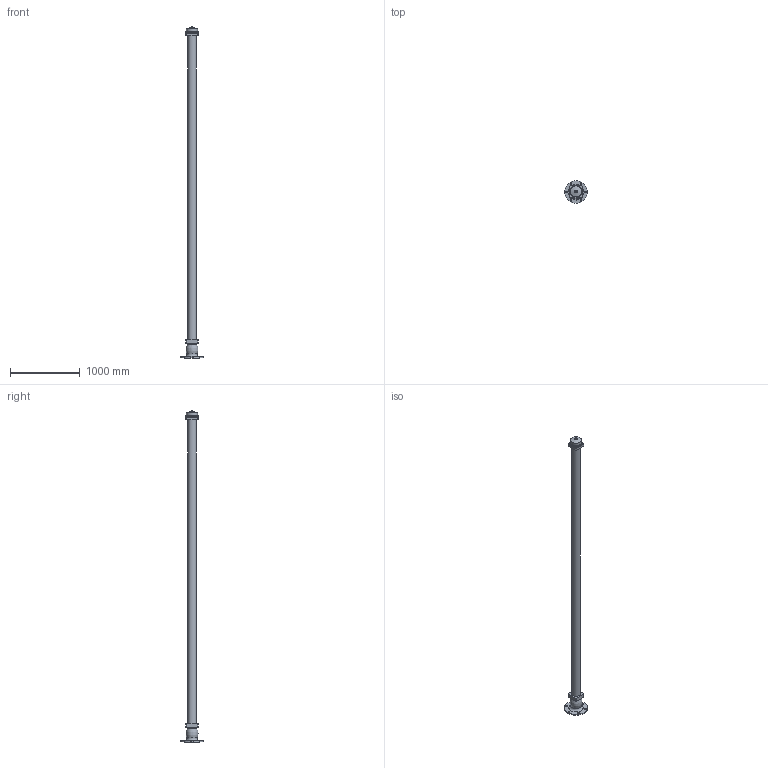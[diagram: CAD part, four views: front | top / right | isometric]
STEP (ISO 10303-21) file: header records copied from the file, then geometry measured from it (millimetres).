
FILE_DESCRIPTION(('STEP AP203'), '1');
FILE_NAME('Ãèäðàíò GPP 4750 ïîæàðíûé ïîäçåìíûé', '', ('UNSPECIFIED'), ('UNSPECIFIED'), 'ASCON STEP Converter 1.6', 'ASCON Math Kernel', '');
FILE_SCHEMA(('CONFIG_CONTROL_DESIGN'));
Length unit declared in the file: millimetre
Bounding box: 330 x 330 x 4772 mm (x, y, z)
Volume: 66750638.8 mm3; surface area: 2225327.9 mm2
Topology: 1 solids, 1 shells, 47 faces, 104 edges, 67 vertices
Faces by surface type: plane 26, cylinder 12, cone 7, torus 2
Full cylindrical faces by diameter (mm): 20 x1, 22 x6, 129 x1, 142 x1, 143 x1, 157.302 x1, 160 x1
Entity records: 1617 total; most frequent: DIRECTION 212, CARTESIAN_POINT 196, ORIENTED_EDGE 164, EDGE_LOOP 88, AXIS2_PLACEMENT_3D 82, EDGE_CURVE 82, VERTEX_POINT 66, COLOUR_RGB 48
